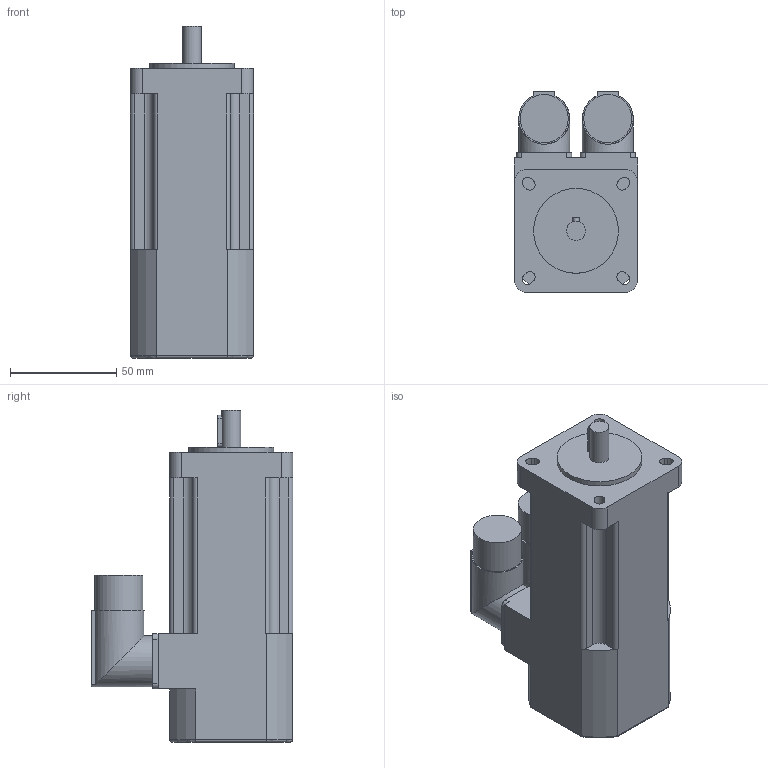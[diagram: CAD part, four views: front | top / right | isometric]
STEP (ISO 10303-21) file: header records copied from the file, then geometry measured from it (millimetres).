
FILE_DESCRIPTION(/* description */ (''),/* implementation_level */ '2;1');
FILE_NAME(/* name */ '\\Lafnas01\disegni\Archivi Lafert\3D\CAD 3D\MODELLI\Assiemi clienti\Serad\Modelli 3D Serad\B28Q\Encoder\With Brake\B28D2Qxx6BRx2033.ipt.stp',/* time_stamp */ '2015-09-07T10:48:20+02:00',/* author */ ('Pastrello Ylenia'),/* organization */ (''),/* preprocessor_version */ 'ST-DEVELOPER v15.6',/* originating_system */ 'Autodesk Inventor 2015',/* authorisation */ '');
FILE_SCHEMA (('AUTOMOTIVE_DESIGN { 1 0 10303 214 3 1 1 }'));
Length unit declared in the file: millimetre
Products named in the file (1): B28D2Qxx6BRx2033
Bounding box: 58 x 95 x 156.5 mm (x, y, z)
Volume: 478943.6 mm3; surface area: 48831.9 mm2
Topology: 1 solids, 1 shells, 135 faces, 364 edges, 237 vertices
Faces by surface type: plane 71, cylinder 60, torus 4
Full cylindrical faces by diameter (mm): 9 x1, 22.7 x2, 24 x2, 40 x1
Entity records: 4341 total; most frequent: CARTESIAN_POINT 864, DIRECTION 737, ORIENTED_EDGE 712, EDGE_CURVE 355, AXIS2_PLACEMENT_3D 258, VERTEX_POINT 235, LINE 221, VECTOR 221
